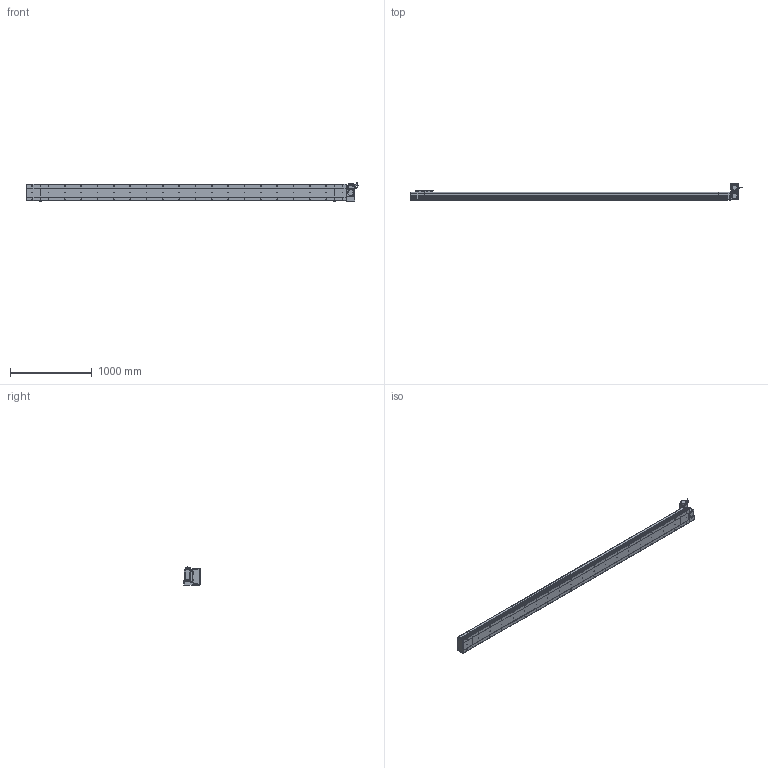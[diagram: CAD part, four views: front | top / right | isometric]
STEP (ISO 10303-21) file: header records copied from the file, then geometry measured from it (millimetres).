
FILE_DESCRIPTION (( 'STEP AP214' ), '1' );
FILE_NAME ('D20 CBH RT S3600.STEP', '2010-06-30T11:01:58', ( 'Conseil Régional Haute-Normandie' ), ( 'Conseil Régional Haute-Normandie' ), 'SwSTEP 2.0', 'SolidWorks 2010', '' );
FILE_SCHEMA (( 'AUTOMOTIVE_DESIGN' ));
Length unit declared in the file: millimetre
Products named in the file (31): Couvercle RT_Default; corps 90BLDC125A-640; Corp Tail D20_Default; Glissiere_Default; vis M5 L47_Default; Rondelle Cache D20 RT_Default; Support Chariot D20_Default; Conecteur2_Default; Conecteur_Default; ecrou_Default; vis M5 L30_Default; vis M5 L15_Default; Plaque de Bout Tail D20_Default; Corp D20 S3600_Default; Corp S3600_Default; Couvercle S3600_Default; Chariot D20_Default; Plaque De Serrage D20_Default; D20 CBH RT S3600; Head RT_Default; Tail D20_Default; Corp Tail D20 RT_Default; avant 90BLDC125A-640; Cache Support Moteur RT_Default; Plaque de Bout Head D20 RT_Default; Couvercle_Default; codeur 90BLDC125-640; Support moteur RT_Default; Plaque De Serrage D20 RT_Default; Moteur motionking 90BLDC125A-640
Assembly tree (68 placements, depth 4):
  D20 CBH RT S3600
    Head RT_Default
      Corp Tail D20 RT_Default
      vis M5 L15_Default  x14
      vis M5 L47_Default  x4
      Plaque de Bout Head D20 RT_Default
      vis M5 L30_Default  x4
      ecrou_Default  x4
      Support moteur RT_Default
      Moteur motionking 90BLDC125A-640
        codeur 90BLDC125-640
        corps 90BLDC125A-640
        avant 90BLDC125A-640
        Conecteur2_Default
        Conecteur_Default
      Rondelle Cache D20 RT_Default  x3
      Cache Support Moteur RT_Default
      Couvercle RT_Default
      Plaque De Serrage D20 RT_Default
    Corp D20 S3600_Default
      Couvercle S3600_Default
      Corp S3600_Default
    Chariot D20_Default
      vis M5 L15_Default  x8
      Chariot D20_Default
      Glissiere_Default
      Support Chariot D20_Default
    Tail D20_Default
      Couvercle_Default
      vis M5 L15_Default  x6
      Plaque De Serrage D20_Default
      Corp Tail D20_Default
      Plaque de Bout Tail D20_Default
Bounding box: 4064.45 x 206.5 x 229.7 mm (x, y, z)
Volume: 27032612.5 mm3; surface area: 5167310.9 mm2
Topology: 105 solids, 105 shells, 3889 faces, 9642 edges, 6262 vertices
Faces by surface type: plane 2152, bspline 806, cylinder 760, torus 95, cone 72, sphere 4
Entity records: 161342 total; most frequent: CARTESIAN_POINT 82625, ORIENTED_EDGE 15552, DIRECTION 11998, EDGE_CURVE 7776, VERTEX_POINT 5146, VECTOR 4984, LINE 4984, AXIS2_PLACEMENT_3D 3507
